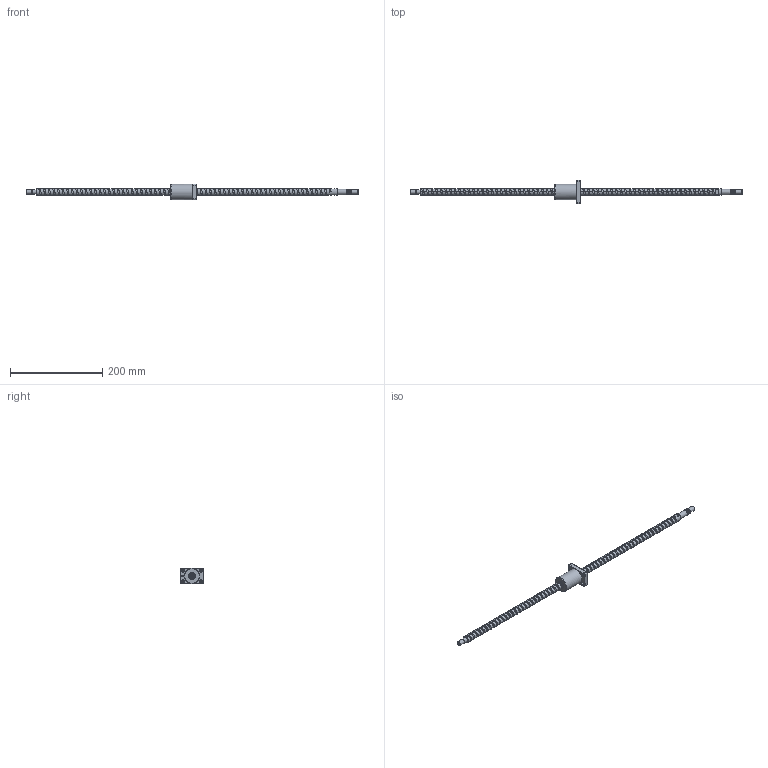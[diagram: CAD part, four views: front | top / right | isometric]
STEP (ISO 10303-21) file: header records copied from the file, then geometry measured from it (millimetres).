
FILE_DESCRIPTION (( 'STEP AP203' ), '1' );
FILE_NAME ('XSVR01510B1DGC5-721-P1.step', '2024-06-03T05:10:46', ( '' ), ( '' ), 'SwSTEP 2.0', 'SolidWorks 2022', '' );
FILE_SCHEMA (( 'CONFIG_CONTROL_DESIGN' ));
Length unit declared in the file: millimetre
Products named in the file (1): XSVR01510B1DGC5-721-P1
Bounding box: 721 x 50 x 34 mm (x, y, z)
Volume: 157122.9 mm3; surface area: 49982.7 mm2
Topology: 2 solids, 2 shells, 194 faces, 530 edges, 346 vertices
Faces by surface type: cylinder 117, plane 43, cone 15, bspline 10, torus 9
Full cylindrical faces by diameter (mm): 4 x1, 4.2 x15, 5 x6, 5.5 x4, 9.5 x4, 9.6 x1, 10 x3, 12 x9, 15 x64, 16.7 x1, 34 x1
Entity records: 19916 total; most frequent: CARTESIAN_POINT 17792, ORIENTED_EDGE 402, DIRECTION 391, EDGE_CURVE 201, AXIS2_PLACEMENT_3D 168, EDGE_LOOP 153, VERTEX_POINT 146, FACE_OUTER_BOUND 120
